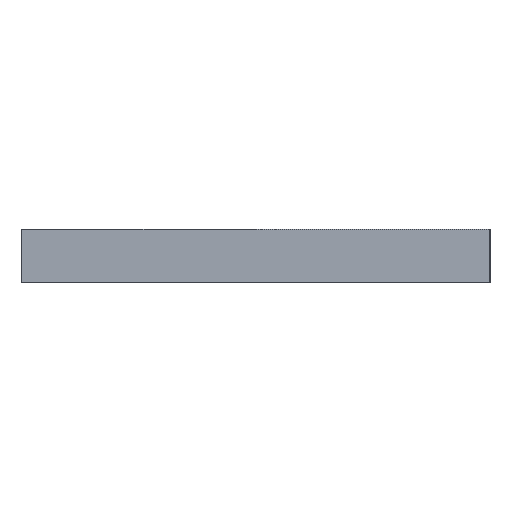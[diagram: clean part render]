
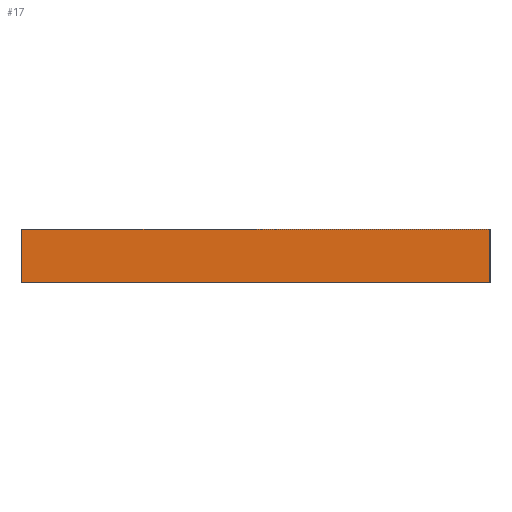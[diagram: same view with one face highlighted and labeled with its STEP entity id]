
A CAD part, left-side view. The second image highlights one B-rep face of the part: STEP entity #17.
In plain terms, the highlighted planar face has unit normal (-1, 0, 0).
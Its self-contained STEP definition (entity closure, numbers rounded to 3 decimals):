
#17 = ADVANCED_FACE('',(#18),#32,.F.);
#18 = FACE_BOUND('',#19,.F.);
#19 = EDGE_LOOP('',(#20,#55,#83,#111));
#20 = ORIENTED_EDGE('',*,*,#21,.F.);
#21 = EDGE_CURVE('',#22,#24,#26,.T.);
#22 = VERTEX_POINT('',#23);
#23 = CARTESIAN_POINT('',(-50.,-35.,40.));
#24 = VERTEX_POINT('',#25);
#25 = CARTESIAN_POINT('',(-50.,-35.,48.));
#26 = SURFACE_CURVE('',#27,(#31,#43),.PCURVE_S1.);
#27 = LINE('',#28,#29);
#28 = CARTESIAN_POINT('',(-50.,-35.,40.));
#29 = VECTOR('',#30,1.);
#30 = DIRECTION('',(0.,0.,1.));
#31 = PCURVE('',#32,#37);
#32 = PLANE('',#33);
#33 = AXIS2_PLACEMENT_3D('',#34,#35,#36);
#34 = CARTESIAN_POINT('',(-50.,-35.,40.));
#35 = DIRECTION('',(1.,0.,0.));
#36 = DIRECTION('',(0.,0.,1.));
#37 = DEFINITIONAL_REPRESENTATION('',(#38),#42);
#38 = LINE('',#39,#40);
#39 = CARTESIAN_POINT('',(0.,0.));
#40 = VECTOR('',#41,1.);
#41 = DIRECTION('',(1.,0.));
#42 = ( GEOMETRIC_REPRESENTATION_CONTEXT(2) 
PARAMETRIC_REPRESENTATION_CONTEXT() REPRESENTATION_CONTEXT('2D SPACE',''
  ) );
#43 = PCURVE('',#44,#49);
#44 = PLANE('',#45);
#45 = AXIS2_PLACEMENT_3D('',#46,#47,#48);
#46 = CARTESIAN_POINT('',(-50.,-35.,40.));
#47 = DIRECTION('',(0.,1.,0.));
#48 = DIRECTION('',(0.,0.,1.));
#49 = DEFINITIONAL_REPRESENTATION('',(#50),#54);
#50 = LINE('',#51,#52);
#51 = CARTESIAN_POINT('',(0.,0.));
#52 = VECTOR('',#53,1.);
#53 = DIRECTION('',(1.,0.));
#54 = ( GEOMETRIC_REPRESENTATION_CONTEXT(2) 
PARAMETRIC_REPRESENTATION_CONTEXT() REPRESENTATION_CONTEXT('2D SPACE',''
  ) );
#55 = ORIENTED_EDGE('',*,*,#56,.T.);
#56 = EDGE_CURVE('',#22,#57,#59,.T.);
#57 = VERTEX_POINT('',#58);
#58 = CARTESIAN_POINT('',(-50.,35.,40.));
#59 = SURFACE_CURVE('',#60,(#64,#71),.PCURVE_S1.);
#60 = LINE('',#61,#62);
#61 = CARTESIAN_POINT('',(-50.,-35.,40.));
#62 = VECTOR('',#63,1.);
#63 = DIRECTION('',(0.,1.,0.));
#64 = PCURVE('',#32,#65);
#65 = DEFINITIONAL_REPRESENTATION('',(#66),#70);
#66 = LINE('',#67,#68);
#67 = CARTESIAN_POINT('',(0.,0.));
#68 = VECTOR('',#69,1.);
#69 = DIRECTION('',(0.,-1.));
#70 = ( GEOMETRIC_REPRESENTATION_CONTEXT(2) 
PARAMETRIC_REPRESENTATION_CONTEXT() REPRESENTATION_CONTEXT('2D SPACE',''
  ) );
#71 = PCURVE('',#72,#77);
#72 = PLANE('',#73);
#73 = AXIS2_PLACEMENT_3D('',#74,#75,#76);
#74 = CARTESIAN_POINT('',(-50.,-35.,40.));
#75 = DIRECTION('',(0.,0.,1.));
#76 = DIRECTION('',(1.,0.,0.));
#77 = DEFINITIONAL_REPRESENTATION('',(#78),#82);
#78 = LINE('',#79,#80);
#79 = CARTESIAN_POINT('',(0.,0.));
#80 = VECTOR('',#81,1.);
#81 = DIRECTION('',(0.,1.));
#82 = ( GEOMETRIC_REPRESENTATION_CONTEXT(2) 
PARAMETRIC_REPRESENTATION_CONTEXT() REPRESENTATION_CONTEXT('2D SPACE',''
  ) );
#83 = ORIENTED_EDGE('',*,*,#84,.T.);
#84 = EDGE_CURVE('',#57,#85,#87,.T.);
#85 = VERTEX_POINT('',#86);
#86 = CARTESIAN_POINT('',(-50.,35.,48.));
#87 = SURFACE_CURVE('',#88,(#92,#99),.PCURVE_S1.);
#88 = LINE('',#89,#90);
#89 = CARTESIAN_POINT('',(-50.,35.,40.));
#90 = VECTOR('',#91,1.);
#91 = DIRECTION('',(0.,0.,1.));
#92 = PCURVE('',#32,#93);
#93 = DEFINITIONAL_REPRESENTATION('',(#94),#98);
#94 = LINE('',#95,#96);
#95 = CARTESIAN_POINT('',(0.,-70.));
#96 = VECTOR('',#97,1.);
#97 = DIRECTION('',(1.,0.));
#98 = ( GEOMETRIC_REPRESENTATION_CONTEXT(2) 
PARAMETRIC_REPRESENTATION_CONTEXT() REPRESENTATION_CONTEXT('2D SPACE',''
  ) );
#99 = PCURVE('',#100,#105);
#100 = PLANE('',#101);
#101 = AXIS2_PLACEMENT_3D('',#102,#103,#104);
#102 = CARTESIAN_POINT('',(-50.,35.,40.));
#103 = DIRECTION('',(0.,1.,0.));
#104 = DIRECTION('',(0.,0.,1.));
#105 = DEFINITIONAL_REPRESENTATION('',(#106),#110);
#106 = LINE('',#107,#108);
#107 = CARTESIAN_POINT('',(0.,0.));
#108 = VECTOR('',#109,1.);
#109 = DIRECTION('',(1.,0.));
#110 = ( GEOMETRIC_REPRESENTATION_CONTEXT(2) 
PARAMETRIC_REPRESENTATION_CONTEXT() REPRESENTATION_CONTEXT('2D SPACE',''
  ) );
#111 = ORIENTED_EDGE('',*,*,#112,.F.);
#112 = EDGE_CURVE('',#24,#85,#113,.T.);
#113 = SURFACE_CURVE('',#114,(#118,#125),.PCURVE_S1.);
#114 = LINE('',#115,#116);
#115 = CARTESIAN_POINT('',(-50.,-35.,48.));
#116 = VECTOR('',#117,1.);
#117 = DIRECTION('',(0.,1.,0.));
#118 = PCURVE('',#32,#119);
#119 = DEFINITIONAL_REPRESENTATION('',(#120),#124);
#120 = LINE('',#121,#122);
#121 = CARTESIAN_POINT('',(8.,0.));
#122 = VECTOR('',#123,1.);
#123 = DIRECTION('',(0.,-1.));
#124 = ( GEOMETRIC_REPRESENTATION_CONTEXT(2) 
PARAMETRIC_REPRESENTATION_CONTEXT() REPRESENTATION_CONTEXT('2D SPACE',''
  ) );
#125 = PCURVE('',#126,#131);
#126 = PLANE('',#127);
#127 = AXIS2_PLACEMENT_3D('',#128,#129,#130);
#128 = CARTESIAN_POINT('',(-50.,-35.,48.));
#129 = DIRECTION('',(0.,0.,1.));
#130 = DIRECTION('',(1.,0.,0.));
#131 = DEFINITIONAL_REPRESENTATION('',(#132),#136);
#132 = LINE('',#133,#134);
#133 = CARTESIAN_POINT('',(0.,0.));
#134 = VECTOR('',#135,1.);
#135 = DIRECTION('',(0.,1.));
#136 = ( GEOMETRIC_REPRESENTATION_CONTEXT(2) 
PARAMETRIC_REPRESENTATION_CONTEXT() REPRESENTATION_CONTEXT('2D SPACE',''
  ) );
